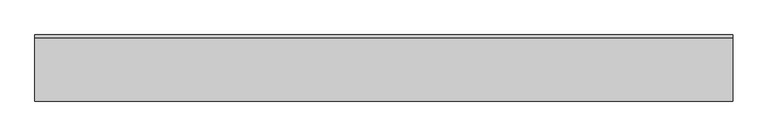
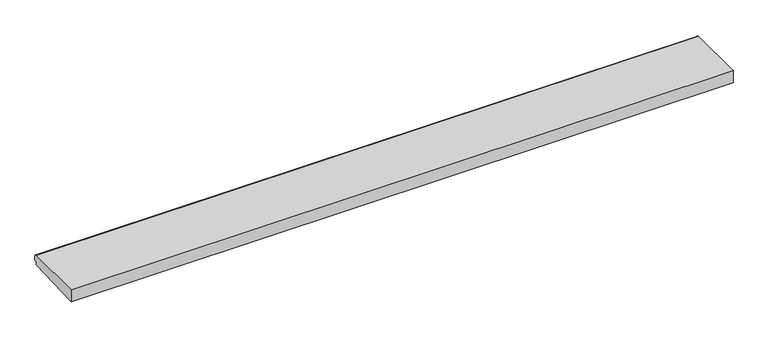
"""IFC4 building model written with IfcOpenShell, lengths in millimetres: proxy geometry, ARQ_BANCA_T3 : ARQ_BANCA_T3."""

import ifcopenshell
import ifcopenshell.guid

model = None  # the IFC model being written
_history = None  # IfcOwnerHistory: only IFC2X3 demands one
_inside = {}  # id of a spatial element -> (the spatial element, [elements in it])
_under = {}  # id of a project, library or spatial element -> (it, [spatial elements below it])
_declared = {}  # id of a project -> (the project, [libraries it declares])
_typed = {}  # id of a type object -> (the type object, [elements of that type])
_made_of = {}  # id of a material, layer set ... -> (it, [elements and type objects made of it])


def new_model(schema):
    """Start an empty IFC model of exactly this schema.

    Asked for "IFC4X3", IfcOpenShell would pick the latest addendum, in which some entities
    have other attributes; the version numbers below select the first issue.
    IFC2X3 requires an IfcOwnerHistory on every rooted entity: one is made here for all.
    """
    global model, _history
    if schema == "IFC4X3":
        model = ifcopenshell.file(schema_version=(4, 3, 0, 0))
    else:
        model = ifcopenshell.file(schema=schema)
    _inside.clear()
    _under.clear()
    _declared.clear()
    _typed.clear()
    _made_of.clear()
    _history = None
    if model.schema == "IFC2X3":
        org = make("IfcOrganization", Name="unknown")
        user = make(
            "IfcPersonAndOrganization",
            ThePerson=make("IfcPerson", FamilyName="unknown"),
            TheOrganization=org,
        )
        app = make(
            "IfcApplication",
            ApplicationDeveloper=org,
            Version="unknown",
            ApplicationFullName="unknown",
            ApplicationIdentifier="unknown",
        )
        _history = make(
            "IfcOwnerHistory",
            OwningUser=user,
            OwningApplication=app,
            ChangeAction="ADDED",
            CreationDate=0,
        )
    return model


def make(cls, **values):
    """One entity of the class cls with the attributes given. An attribute that is None is left unset."""
    return model.create_entity(
        cls, **{name: value for name, value in values.items() if value is not None}
    )


def rooted(cls, **values):
    """An entity with a GlobalId (a new one), such as an element, a storey or a relation."""
    return make(cls, GlobalId=ifcopenshell.guid.new(), OwnerHistory=_history, **values)


def si_unit(unit_type, name, prefix=None):
    """IfcSIUnit, for example si_unit("LENGTHUNIT", "METRE", prefix="MILLI")."""
    return make("IfcSIUnit", UnitType=unit_type, Prefix=prefix, Name=name)


def assignment(units):
    """IfcUnitAssignment: the units of a project."""
    return None if units is None else make("IfcUnitAssignment", Units=units)


def point(xyz):
    """IfcCartesianPoint."""
    return None if xyz is None else make("IfcCartesianPoint", Coordinates=xyz)


def direction(xyz):
    """IfcDirection."""
    return None if xyz is None else make("IfcDirection", DirectionRatios=xyz)


def frame(location, z_axis=None, x_axis=None):
    """IfcAxis2Placement3D, a coordinate frame: its origin and axes. An axis left out is left unset."""
    return make(
        "IfcAxis2Placement3D",
        Location=point(location),
        Axis=direction(z_axis),
        RefDirection=direction(x_axis),
    )


def frame_2d(location, x_axis=None):
    """IfcAxis2Placement2D, a coordinate frame in the plane: its origin and x axis."""
    return make(
        "IfcAxis2Placement2D", Location=point(location), RefDirection=direction(x_axis)
    )


def origin():
    """The frame at (0, 0, 0) with its axes left unset."""
    return frame((0.0, 0.0, 0.0))


def place(relative_to, where):
    """IfcLocalPlacement: puts the frame where relative to a parent placement (None: the world)."""
    return make(
        "IfcLocalPlacement", PlacementRelTo=relative_to, RelativePlacement=where
    )


def context(
    kind, dimensions, precision=None, world=None, true_north=None, identifier=None
):
    """IfcGeometricRepresentationContext, for example the 3D "Model" context."""
    return make(
        "IfcGeometricRepresentationContext",
        ContextIdentifier=identifier,
        ContextType=kind,
        CoordinateSpaceDimension=dimensions,
        Precision=precision,
        WorldCoordinateSystem=world,
        TrueNorth=true_north,
    )


def project(units=None, contexts=None):
    """IfcProject with its units and contexts."""
    return rooted(
        "IfcProject",
        Name="project",
        RepresentationContexts=contexts,
        UnitsInContext=assignment(units),
    )


def spatial(cls, under=None, at=None, **own):
    """A site, building, storey or space (cls), placed at a placement, below another one or the project."""
    s = rooted(cls, ObjectPlacement=at, **own)
    if under is not None:
        _under.setdefault(under.id(), (under, []))[1].append(s)
    return s


def polyline(points):
    """IfcPolyline through the points."""
    return make("IfcPolyline", Points=[point(p) for p in points])


def circle_curve(where, radius):
    """IfcCircle in the frame where."""
    return make("IfcCircle", Position=where, Radius=radius)


def trimmed(basis, trim1, trim2, sense, master):
    """IfcTrimmedCurve: the piece of a basis curve between two trims."""
    return make(
        "IfcTrimmedCurve",
        BasisCurve=basis,
        Trim1=trim1,
        Trim2=trim2,
        SenseAgreement=sense,
        MasterRepresentation=master,
    )


def segment(curve, same_sense, transition):
    """IfcCompositeCurveSegment."""
    return make(
        "IfcCompositeCurveSegment",
        Transition=transition,
        SameSense=same_sense,
        ParentCurve=curve,
    )


def composite_curve(segments, self_intersect=None):
    """IfcCompositeCurve: segments joined end to end."""
    return make("IfcCompositeCurve", Segments=segments, SelfIntersect=self_intersect)


def outline(outer, holes=None, kind="AREA"):
    """IfcArbitraryClosedProfileDef: a profile drawn as a closed curve; with holes, ...WithVoids."""
    if holes is None:
        return make("IfcArbitraryClosedProfileDef", ProfileType=kind, OuterCurve=outer)
    return make(
        "IfcArbitraryProfileDefWithVoids",
        ProfileType=kind,
        OuterCurve=outer,
        InnerCurves=holes,
    )


def extrude(swept, where, along, depth):
    """IfcExtrudedAreaSolid: the profile swept, set in the frame where, extruded along a direction by depth."""
    return make(
        "IfcExtrudedAreaSolid",
        SweptArea=swept,
        Position=where,
        ExtrudedDirection=direction(along),
        Depth=depth,
    )


def shape(context_of_items, identifier, shape_type, items):
    """IfcShapeRepresentation: the items that make up one representation, for example the "Body"."""
    return make(
        "IfcShapeRepresentation",
        ContextOfItems=context_of_items,
        RepresentationIdentifier=identifier,
        RepresentationType=shape_type,
        Items=items,
    )


def source(mapping_origin, context_of_items, identifier, shape_type, items):
    """IfcRepresentationMap: a shape defined once, which mapped items show again and again."""
    return make(
        "IfcRepresentationMap",
        MappingOrigin=mapping_origin,
        MappedRepresentation=shape(context_of_items, identifier, shape_type, items),
    )


def transform(
    local_origin,
    x_axis=None,
    y_axis=None,
    z_axis=None,
    scale=None,
    scale2=None,
    scale3=None,
    uniform=True,
):
    """IfcCartesianTransformationOperator3D, or its non-uniform kind. x_axis, y_axis, z_axis: its Axis1, 2, 3."""
    if uniform:
        return make(
            "IfcCartesianTransformationOperator3D",
            Axis1=direction(x_axis),
            Axis2=direction(y_axis),
            LocalOrigin=point(local_origin),
            Scale=scale,
            Axis3=direction(z_axis),
        )
    return make(
        "IfcCartesianTransformationOperator3DnonUniform",
        Axis1=direction(x_axis),
        Axis2=direction(y_axis),
        LocalOrigin=point(local_origin),
        Scale=scale,
        Axis3=direction(z_axis),
        Scale2=scale2,
        Scale3=scale3,
    )


def mapped(mapping_source, mapping_target):
    """IfcMappedItem: shows the shape of a source again, moved by a transform."""
    return make(
        "IfcMappedItem", MappingSource=mapping_source, MappingTarget=mapping_target
    )


def made_of(thing, what):
    """Note that an element or type object is made of a material, layer set ...; save() writes the relation."""
    if what is not None:
        _made_of.setdefault(what.id(), (what, []))[1].append(thing)
    return thing


def element(
    cls,
    number,
    at=None,
    inside=None,
    cuts=None,
    type_object=None,
    material=None,
    context=None,
    identifier="Body",
    shape_type=None,
    held_by="IfcProductDefinitionShape",
    body=None,
    shapes=None,
    **own,
):
    """One element of the class cls, such as IfcWall. Its Tag is "e" and its number.

    at: its placement. inside: the storey or other place that contains it. cuts: it is an
    opening in that element (IfcRelVoidsElement). A single representation is given by context,
    identifier, shape_type and body (its items); several are given by shapes. held_by: the class
    of the entity that holds the representations. save() writes the other relations.
    """
    e = rooted(cls, Tag="e%d" % number, ObjectPlacement=at, **own)
    if body is not None:
        shapes = [shape(context, identifier, shape_type, body)]
    if shapes is not None:
        e.Representation = make(held_by, Representations=shapes)
    if inside is not None:
        _inside.setdefault(inside.id(), (inside, []))[1].append(e)
    if cuts is not None:
        rooted(
            "IfcRelVoidsElement", RelatingBuildingElement=cuts, RelatedOpeningElement=e
        )
    if type_object is not None:
        _typed.setdefault(type_object.id(), (type_object, []))[1].append(e)
    return made_of(e, material)


def aggregate(whole, parts):
    """IfcRelAggregates: a whole, such as a stair, and the parts it consists of."""
    return rooted("IfcRelAggregates", RelatingObject=whole, RelatedObjects=parts)


def save(model, path):
    """Write the relations noted so far, then the file.

    IfcRelAggregates (storeys below a building ...), IfcRelContainedInSpatialStructure (elements
    in a storey), IfcRelDefinesByType, IfcRelAssociatesMaterial and IfcRelDeclares: one each for
    every whole, place, type object, material and project.
    """
    for whole, parts in _under.values():
        aggregate(whole, parts)
    for where, things in _inside.values():
        rooted(
            "IfcRelContainedInSpatialStructure",
            RelatedElements=things,
            RelatingStructure=where,
        )
    for kind, things in _typed.values():
        rooted("IfcRelDefinesByType", RelatedObjects=things, RelatingType=kind)
    for what, things in _made_of.values():
        rooted("IfcRelAssociatesMaterial", RelatedObjects=things, RelatingMaterial=what)
    for by, libraries in _declared.values():
        rooted("IfcRelDeclares", RelatingContext=by, RelatedDefinitions=libraries)
    model.write(path)


def generic_models_3f5acc9a(model_context):
    return source(origin(), model_context, "Body", "SweptSolid", [
        extrude(outline(composite_curve([segment(polyline([(458.9887539, 322.2211934), (0.0, 302.6129318), (0.0, 400.0), (459.0, 399.921901)]), True, "CONTINUOUS"), segment(trimmed(circle_curve(frame_2d((459.0, 379.921901)), 20.0), [point((459.0, 399.921901))], [point((479.0, 379.921901))], False, "CARTESIAN"), True, "CONTINUOUS"), segment(polyline([(479.0, 379.921901), (479.0, 349.9219009), (458.9887539, 349.9219009), (458.9887539, 322.2211934)]), True, "CONTINUOUS")], self_intersect=False)), frame((-2528.6011025, 0.0, 0.0), z_axis=(1.0, 0.0, 0.0), x_axis=(0.0, 1.0, 0.0)), (0.0, 0.0, 1.0), 5057.2022051),
    ])


if __name__ == "__main__":
    model = new_model("IFC4")
    model_context = context("Model", 3, world=origin())
    ifc_project = project(units=[si_unit("LENGTHUNIT", "METRE", prefix="MILLI")], contexts=[model_context])
    site = spatial("IfcSite", under=ifc_project)
    building = spatial("IfcBuilding", under=site)
    placement = place(None, origin())
    generic_models_shape = generic_models_3f5acc9a(model_context)
    element("IfcBuildingElementProxy", 1, Name="ARQ_BANCA_T3 : ARQ_BANCA_T3", ObjectType="ARQ_BANCA_T3 : ARQ_BANCA_T3", at=placement, inside=building, context=model_context, shape_type="MappedRepresentation", body=[
        mapped(generic_models_shape, transform((0.0, 0.0, 0.0), x_axis=(1.0, 0.0, 0.0), y_axis=(0.0, 1.0, 0.0), z_axis=(0.0, 0.0, 1.0))),
    ])
    save(model, "model.ifc")
